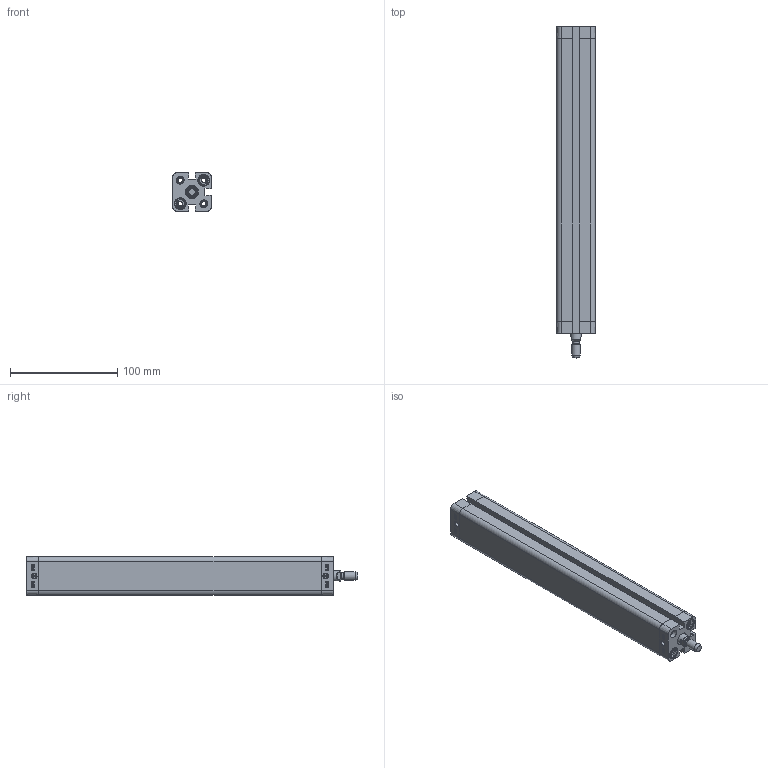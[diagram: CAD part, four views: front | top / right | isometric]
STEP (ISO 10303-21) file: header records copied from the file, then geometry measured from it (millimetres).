
FILE_DESCRIPTION((''),'2;1');
FILE_NAME('T:\Archivio Inventor\- CATALOGHI 2012\SERIE P - NUOVA\PDM\PDM020\PDM020.---.GS.M\STEP\PDM020.250.GS.M.stp','2013-01-30T11:01:54',('Administrator'),(''),'Autodesk Inventor 2012','Autodesk Inventor 2012','');
FILE_SCHEMA(('CONFIG_CONTROL_DESIGN'));
Length unit declared in the file: millimetre
Products named in the file (1): PDM020.250.GS.M
Bounding box: 36.3 x 309.6 x 36.3 mm (x, y, z)
Volume: 180255.5 mm3; surface area: 105837.7 mm2
Topology: 1 solids, 3 shells, 489 faces, 1225 edges, 798 vertices
Faces by surface type: plane 245, bspline 94, cylinder 88, cone 50, torus 12
Full cylindrical faces by diameter (mm): 1.75 x2, 4.134 x10, 5.8 x1, 7.5 x4, 7.55 x2, 8 x9, 9 x1, 10 x1, 10.8 x4, 11.1 x4, 11.4 x1, 20 x1, 22.3 x1, 22.5 x1
Entity records: 15051 total; most frequent: CARTESIAN_POINT 3734, ORIENTED_EDGE 2232, DIRECTION 1950, EDGE_CURVE 1116, VERTEX_POINT 782, VECTOR 670, LINE 670, EDGE_LOOP 652
